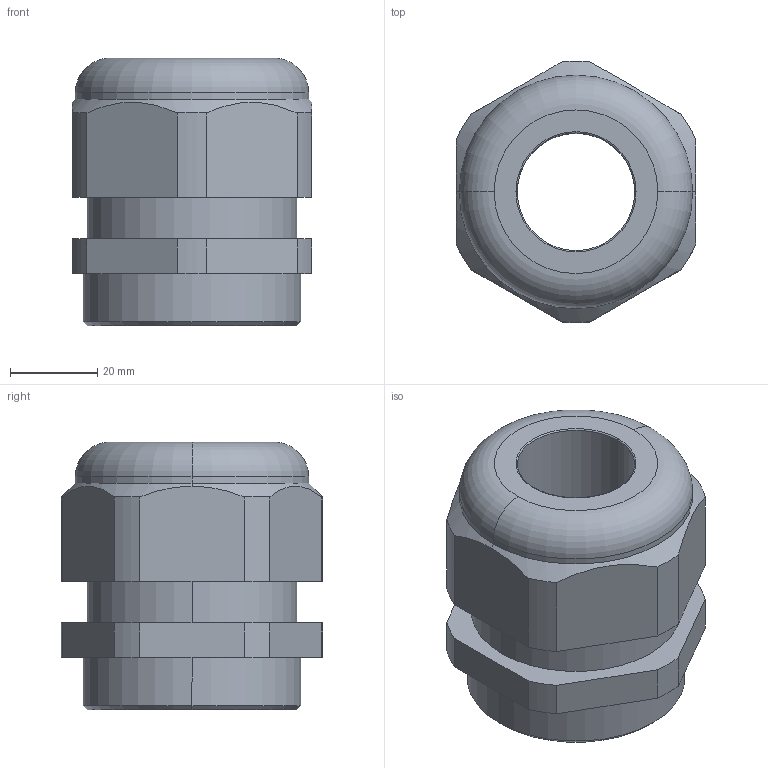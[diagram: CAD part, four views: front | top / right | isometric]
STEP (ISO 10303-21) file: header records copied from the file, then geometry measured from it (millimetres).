
FILE_DESCRIPTION (( 'STEP AP203' ), '1' );
FILE_NAME ('50.650 PA-R.STEP', '2005-09-21T09:12:21', ( ' ' ), ( '' ), 'SwSTEP 2.0', 'SolidWorks 2005143', '' );
FILE_SCHEMA (( 'CONFIG_CONTROL_DESIGN' ));
Length unit declared in the file: millimetre
Products named in the file (1): 50.650 PA-R
Bounding box: 55 x 59.96 x 61.5 mm (x, y, z)
Volume: 103377.5 mm3; surface area: 20390.7 mm2
Topology: 1 solids, 1 shells, 82 faces, 214 edges, 140 vertices
Faces by surface type: plane 54, cylinder 20, cone 4, torus 4
Entity records: 2668 total; most frequent: CARTESIAN_POINT 536, ORIENTED_EDGE 428, DIRECTION 422, EDGE_CURVE 214, VECTOR 156, LINE 156, VERTEX_POINT 140, AXIS2_PLACEMENT_3D 133
